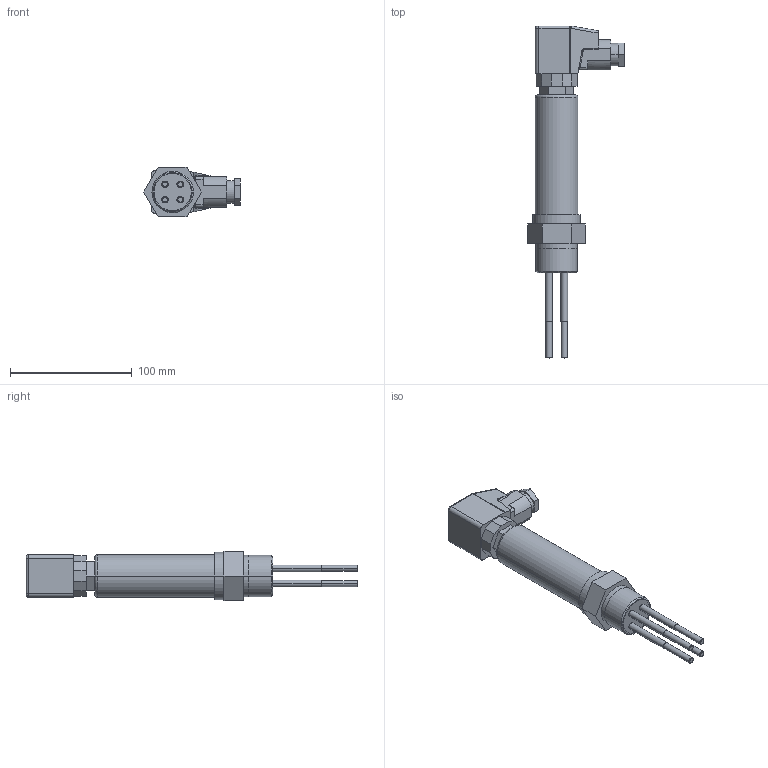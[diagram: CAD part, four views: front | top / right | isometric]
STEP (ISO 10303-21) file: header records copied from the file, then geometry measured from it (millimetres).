
FILE_DESCRIPTION((''),'2;1');
FILE_NAME('CAT_I_710','2024-11-15T11:39:27',('LGZ'),(''),'CREO PARAMETRIC BY PTC INC, 2023072','CREO PARAMETRIC BY PTC INC, 2023072','');
FILE_SCHEMA(('AUTOMOTIVE_DESIGN { 1 0 10303 214 1 1 1 1 }'));
Length unit declared in the file: millimetre
Products named in the file (1): CAT_I_710
Bounding box: 79.17 x 272.5 x 41 mm (x, y, z)
Volume: 232837.8 mm3; surface area: 39784.8 mm2
Topology: 1 solids, 4 shells, 158 faces, 374 edges, 237 vertices
Faces by surface type: plane 69, cylinder 63, cone 12, bspline 8, torus 6
Entity records: 5004 total; most frequent: CARTESIAN_POINT 1153, DIRECTION 784, ORIENTED_EDGE 736, EDGE_CURVE 372, AXIS2_PLACEMENT_3D 285, VERTEX_POINT 237, VECTOR 214, LINE 214
